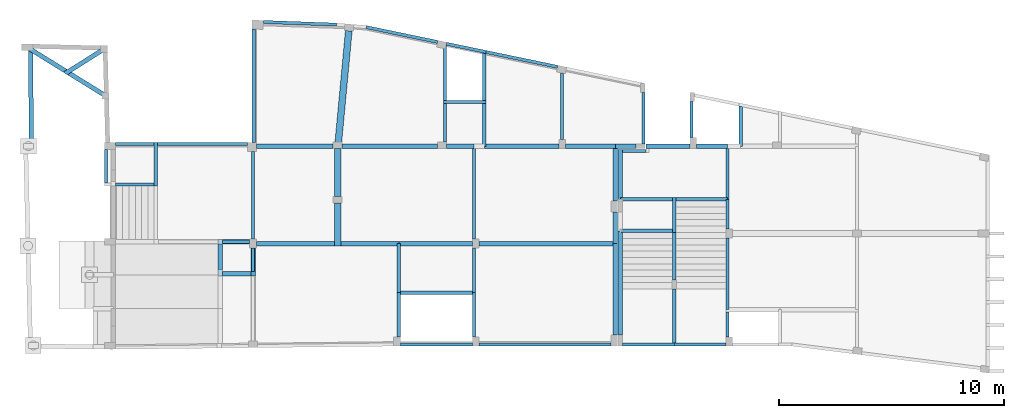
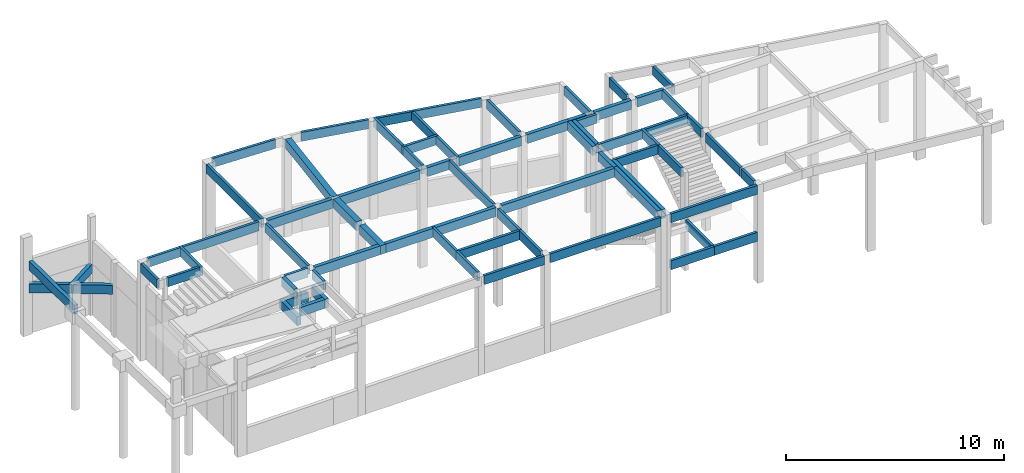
# One storey, part 2 of 8: 73 beams.
"""IFC4 building model written with IfcOpenShell, lengths in centimetres."""

from ifc_helpers import new_model, si_unit, derived_unit, frame, origin, origin_with_axes, origin_2d_with_axis, place, context, project, spatial, rectangle, extrude, clip, halfspace, material, element, save


model = new_model("IFC4")

# Units and contexts
model_context = context("Model", 3, precision=1e-05, world=origin_with_axes(), identifier="Body")
ifc_project = project(units=[si_unit("LENGTHUNIT", "METRE", prefix="CENTI"), si_unit("VOLUMEUNIT", "CUBIC_METRE"), si_unit("AREAUNIT", "SQUARE_METRE"), si_unit("POWERUNIT", "WATT"), si_unit("LUMINOUSFLUXUNIT", "LUMEN"), si_unit("ELECTRICCURRENTUNIT", "AMPERE"), si_unit("PRESSUREUNIT", "PASCAL", prefix="KILO"), si_unit("MASSUNIT", "GRAM", prefix="KILO"), si_unit("PLANEANGLEUNIT", "RADIAN"), derived_unit("VOLUMETRICFLOWRATEUNIT", [(si_unit("LENGTHUNIT", "METRE"), 3), (si_unit("TIMEUNIT", "SECOND"), -1)])], contexts=[model_context])

# Site, building, storey
site_placement = place(None, origin_with_axes())
site = spatial("IfcSite", under=ifc_project, at=site_placement)
building_placement = place(site_placement, origin())
building = spatial("IfcBuilding", under=site, at=building_placement)
placement = place(building_placement, origin_with_axes())
storey_placement = place(placement, frame((0.0, 0.0, 550.0), z_axis=(0.0, 0.0, 1.0), x_axis=(1.0, 0.0, 0.0)))
storey = spatial("IfcBuildingStorey", under=building, at=storey_placement, Name="TÉRREO", CompositionType="ELEMENT", Elevation=550.0)

# Beams
ifc_material = material(Name="Concreto")
for number, where, z_axis, x_axis in (
    (1, (3018.6, -1337.1, -263.0), (0.0, 0.0, 1.0), (1.0, 0.0, 0.0)),
    (2, (2788.6, -1337.1, -263.0), (0.0, 0.0, 1.0), (1.0, 0.0, 0.0)),
):
    element("IfcBeam", number, at=place(storey_placement, frame(where, z_axis=z_axis, x_axis=x_axis)), inside=storey, material=ifc_material, Name="V.ESCADA1", context=model_context, shape_type="SolidModel", body=[
        extrude(rectangle(XDim=14.0, YDim=50.0, at=origin_2d_with_axis()), frame((-115.0, 0.0, -25.0), z_axis=(1.0, 0.0, 0.0), x_axis=(0.0, 1.0, 0.0)), (0.0, 0.0, 1.0), 230.0),
    ])
beam_1_placement = place(storey_placement, frame((2903.6, -1213.6, -263.0), z_axis=(0.0, 0.0, 1.0), x_axis=(1.0, 0.0, 0.0)))
element("IfcBeam", 3, at=beam_1_placement, inside=storey, material=ifc_material, Name="V.ESCADA2", context=model_context, shape_type="SolidModel", body=[
    extrude(rectangle(XDim=14.0, YDim=50.0, at=origin_2d_with_axis()), frame((0.0, -123.5, -25.0), z_axis=(0.0, 1.0, 0.0), x_axis=(1.0, 0.0, 0.0)), (0.0, 0.0, 1.0), 247.0),
])
beam_2_placement = place(storey_placement, frame((41.2499080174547, -236.0598357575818, -135.0), z_axis=(0.0, 0.0, 1.0), x_axis=(1.0, 0.0, 0.0)))
element("IfcBeam", 4, at=beam_2_placement, inside=storey, material=ifc_material, Name="V.MURO2", context=model_context, shape_type="SolidModel", body=[
    extrude(rectangle(XDim=20.0, YDim=50.0, at=origin_2d_with_axis()), frame((1.250275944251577, -206.12049216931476, -25.0), z_axis=(-0.006065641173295, 1.0, 0.0), x_axis=(1.0, 0.006065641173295, 0.0)), (0.0, 0.0, 1.0), 412.2485681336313),
])
beam_3_placement = place(storey_placement, frame((285.51758311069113, -178.85838788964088, -263.0), z_axis=(0.0, 0.0, 1.0), x_axis=(1.0, 0.0, 0.0)))
element("IfcBeam", 5, at=beam_3_placement, inside=storey, material=ifc_material, Name="V.MURO3", context=model_context, shape_type="Clipping", body=[
    clip(extrude(rectangle(XDim=20.0, YDim=50.0, at=origin_2d_with_axis()), frame((-76.97662824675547, 50.23007914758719, -25.0), z_axis=(0.85022396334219, -0.526421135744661, 0.0), x_axis=(0.526421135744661, 0.85022396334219, 0.0)), (0.0, 0.0, 1.0), 181.07376777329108), halfspace(frame((-63.41224519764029, 53.59321897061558, 0.0), z_axis=(0.533145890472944, -0.846023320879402, 0.0), x_axis=(0.0, 0.0, 0.43865003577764)), True)),
])
beam_4_placement = place(storey_placement, frame((119.3630870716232, -73.4187566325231, -263.0), z_axis=(0.0, 0.0, 1.0), x_axis=(1.0, 0.0, 0.0)))
element("IfcBeam", 6, at=beam_4_placement, inside=storey, material=ifc_material, Name="V.MURO3", context=model_context, shape_type="SolidModel", body=[
    extrude(rectangle(XDim=20.0, YDim=50.0, at=origin_2d_with_axis()), frame((-83.86691292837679, 51.92124336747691, -25.0), z_axis=(0.850248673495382, -0.526381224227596, 0.0), x_axis=(0.526381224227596, 0.850248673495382, 0.0)), (0.0, 0.0, 1.0), 197.27619822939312),
])
beam_5_placement = place(storey_placement, frame((272.9837899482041, -78.78027161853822, -263.0), z_axis=(0.0, 0.0, 1.0), x_axis=(1.0, 0.0, 0.0)))
element("IfcBeam", 7, at=beam_5_placement, inside=storey, material=ifc_material, Name="V.MURO4", context=model_context, shape_type="Clipping", body=[
    clip(extrude(rectangle(XDim=20.0, YDim=50.0, at=origin_2d_with_axis()), frame((-83.29766895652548, -55.09479267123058, -25.0), z_axis=(0.846023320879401, 0.533145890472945, 0.0), x_axis=(0.533145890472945, -0.846023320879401, 0.0)), (0.0, 0.0, 1.0), 196.91577501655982), halfspace(frame((-88.62912786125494, -46.634559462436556, 0.0), z_axis=(0.526421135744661, 0.85022396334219, 0.0), x_axis=(0.0, 0.0, -0.438650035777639)), True)),
])
beam_6_placement = place(storey_placement, frame((882.6, -951.4, -135.0), z_axis=(0.0, 0.0, 1.0), x_axis=(1.0, 0.0, 0.0)))
element("IfcBeam", 8, at=beam_6_placement, inside=storey, material=ifc_material, Name="V.RAMPA13", context=model_context, shape_type="SolidModel", body=[
    extrude(rectangle(XDim=20.0, YDim=50.0, at=origin_2d_with_axis()), frame((0.0, -81.5, -25.0), z_axis=(0.0, 1.0, 0.0), x_axis=(1.0, 0.0, 0.0)), (0.0, 0.0, 1.0), 163.0),
])
beam_7_placement = place(storey_placement, frame((882.6, -946.575, 0.0), z_axis=(0.0, 0.0, 1.0), x_axis=(1.0, 0.0, 0.0)))
element("IfcBeam", 9, at=beam_7_placement, inside=storey, material=ifc_material, Name="V.RAMPA2", context=model_context, shape_type="SolidModel", body=[
    extrude(rectangle(XDim=20.0, YDim=50.0, at=origin_2d_with_axis()), frame((0.0, -56.325, -25.0), z_axis=(0.0, 1.0, 0.0), x_axis=(1.0, 0.0, 0.0)), (0.0, 0.0, 1.0), 112.65),
])
beam_8_placement = place(storey_placement, frame((956.05, -1022.9, -89.0), z_axis=(0.0, 0.0, 1.0), x_axis=(1.0, 0.0, 0.0)))
element("IfcBeam", 10, at=beam_8_placement, inside=storey, material=ifc_material, Name="V.RAMPA4", context=model_context, shape_type="SolidModel", body=[
    extrude(rectangle(XDim=20.0, YDim=50.0, at=origin_2d_with_axis()), frame((-63.45, 0.0, -25.0), z_axis=(1.0, 0.0, 0.0), x_axis=(0.0, -1.0, 0.0)), (0.0, 0.0, 1.0), 126.9),
])
beam_9_placement = place(storey_placement, frame((1029.5, -970.6326075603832, -89.0), z_axis=(0.0, 0.0, 1.0), x_axis=(1.0, 0.0, 0.0)))
element("IfcBeam", 11, at=beam_9_placement, inside=storey, material=ifc_material, Name="V.RAMPA7", context=model_context, shape_type="SolidModel", body=[
    extrude(rectangle(XDim=20.0, YDim=50.0, at=origin_2d_with_axis()), frame((0.0, -62.267392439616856, -25.0), z_axis=(0.0, 1.0, 0.0), x_axis=(1.0, 0.0, 0.0)), (0.0, 0.0, 1.0), 124.53478487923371),
])
beam_10_placement = place(storey_placement, frame((953.58224302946, -879.9, -135.0), z_axis=(0.0, 0.0, 1.0), x_axis=(1.0, 0.0, 0.0)))
element("IfcBeam", 12, at=beam_10_placement, inside=storey, material=ifc_material, Name="V.RAMPA8", context=model_context, shape_type="SolidModel", body=[
    extrude(rectangle(XDim=20.0, YDim=50.0, at=origin_2d_with_axis()), frame((-60.98224302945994, 0.0, -25.0), z_axis=(1.0, 0.0, 0.0), x_axis=(0.0, -1.0, 0.0)), (0.0, 0.0, 1.0), 121.96448605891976),
])
beam_11_placement = place(storey_placement, frame((1971.0, -258.9, 0.0), z_axis=(0.0, 0.0, 1.0), x_axis=(1.0, 0.0, 0.0)))
element("IfcBeam", 13, at=beam_11_placement, inside=storey, material=ifc_material, Name="V1", context=model_context, shape_type="SolidModel", body=[
    extrude(rectangle(XDim=14.0, YDim=50.0, at=origin_2d_with_axis()), frame((-94.0, 0.0, -25.0), z_axis=(1.0, 0.0, 0.0), x_axis=(0.0, 1.0, 0.0)), (0.0, 0.0, 1.0), 188.0),
])
beam_12_placement = place(storey_placement, frame((2338.1, -888.4, 0.0), z_axis=(0.0, 0.0, 1.0), x_axis=(1.0, 0.0, 0.0)))
element("IfcBeam", 14, at=beam_12_placement, inside=storey, material=ifc_material, Name="V10", context=model_context, shape_type="SolidModel", body=[
    extrude(rectangle(XDim=20.0, YDim=50.0, at=origin_2d_with_axis()), frame((-303.5, 0.0, -25.0), z_axis=(1.0, 0.0, 0.0), x_axis=(0.0, 1.0, 0.0)), (0.0, 0.0, 1.0), 607.0),
])
beam_13_placement = place(storey_placement, frame((1841.1, -888.4, 0.0), z_axis=(0.0, 0.0, 1.0), x_axis=(1.0, 0.0, 0.0)))
element("IfcBeam", 15, at=beam_13_placement, inside=storey, material=ifc_material, Name="V10", context=model_context, shape_type="SolidModel", body=[
    extrude(rectangle(XDim=20.0, YDim=50.0, at=origin_2d_with_axis()), frame((-163.5, 0.0, -25.0), z_axis=(1.0, 0.0, 0.0), x_axis=(0.0, 1.0, 0.0)), (0.0, 0.0, 1.0), 327.0),
])
beam_14_placement = place(storey_placement, frame((1225.232592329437, -888.4, 0.0), z_axis=(0.0, 0.0, 1.0), x_axis=(1.0, 0.0, 0.0)))
element("IfcBeam", 16, at=beam_14_placement, inside=storey, material=ifc_material, Name="V10", context=model_context, shape_type="SolidModel", body=[
    extrude(rectangle(XDim=20.0, YDim=50.0, at=origin_2d_with_axis()), frame((-180.767407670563, 0.0, -25.0), z_axis=(1.0, 0.0, 0.0), x_axis=(0.0, -1.0, 0.0)), (0.0, 0.0, 1.0), 361.534815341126),
])
beam_15_placement = place(storey_placement, frame((1549.3, -888.4, 0.0), z_axis=(0.0, 0.0, 1.0), x_axis=(1.0, 0.0, 0.0)))
element("IfcBeam", 17, at=beam_15_placement, inside=storey, material=ifc_material, Name="V10", context=model_context, shape_type="SolidModel", body=[
    extrude(rectangle(XDim=20.0, YDim=50.0, at=origin_2d_with_axis()), frame((-128.3, 0.0, -25.0), z_axis=(1.0, 0.0, 0.0), x_axis=(0.0, -1.0, 0.0)), (0.0, 0.0, 1.0), 256.6),
])
beam_16_placement = place(storey_placement, frame((1844.6, -1106.9, 0.0), z_axis=(0.0, 0.0, 1.0), x_axis=(1.0, 0.0, 0.0)))
element("IfcBeam", 18, at=beam_16_placement, inside=storey, material=ifc_material, Name="V14", context=model_context, shape_type="SolidModel", body=[
    extrude(rectangle(XDim=14.0, YDim=50.0, at=origin_2d_with_axis()), frame((-167.0, 0.0, -25.0), z_axis=(1.0, 0.0, 0.0), x_axis=(0.0, -1.0, 0.0)), (0.0, 0.0, 1.0), 334.0),
])
beam_17_placement = place(storey_placement, frame((1844.6, -1337.1, 0.0), z_axis=(0.0, 0.0, 1.0), x_axis=(1.0, 0.0, 0.0)))
element("IfcBeam", 19, at=beam_17_placement, inside=storey, material=ifc_material, Name="V18", context=model_context, shape_type="SolidModel", body=[
    extrude(rectangle(XDim=14.0, YDim=50.0, at=origin_2d_with_axis()), frame((160.0, 0.0, -25.0), z_axis=(-1.0, 0.0, 0.0), x_axis=(0.0, -1.0, 0.0)), (0.0, 0.0, 1.0), 320.0),
])
beam_18_placement = place(storey_placement, frame((2328.1, -1337.1, 0.0), z_axis=(0.0, 0.0, 1.0), x_axis=(1.0, 0.0, 0.0)))
element("IfcBeam", 20, at=beam_18_placement, inside=storey, material=ifc_material, Name="V18", context=model_context, shape_type="SolidModel", body=[
    extrude(rectangle(XDim=14.0, YDim=50.0, at=origin_2d_with_axis()), frame((293.5, 0.0, -25.0), z_axis=(-1.0, 0.0, 0.0), x_axis=(0.0, 1.0, 0.0)), (0.0, 0.0, 1.0), 587.0),
])
beam_19_placement = place(storey_placement, frame((800.75, -445.8, 0.0), z_axis=(0.0, 0.0, 1.0), x_axis=(1.0, 0.0, 0.0)))
element("IfcBeam", 21, at=beam_19_placement, inside=storey, material=ifc_material, Name="V2", context=model_context, shape_type="SolidModel", body=[
    extrude(rectangle(XDim=14.0, YDim=50.0, at=origin_2d_with_axis()), frame((-204.25, 0.0, -25.0), z_axis=(1.0, 0.0, 0.0), x_axis=(0.0, -1.0, 0.0)), (0.0, 0.0, 1.0), 408.5),
])
beam_20_placement = place(storey_placement, frame((503.625, -445.8, 0.0), z_axis=(0.0, 0.0, 1.0), x_axis=(1.0, 0.0, 0.0)))
element("IfcBeam", 22, at=beam_20_placement, inside=storey, material=ifc_material, Name="V2", context=model_context, shape_type="SolidModel", body=[
    extrude(rectangle(XDim=14.0, YDim=50.0, at=origin_2d_with_axis()), frame((-85.875, 0.0, -25.0), z_axis=(1.0, 0.0, 0.0), x_axis=(0.0, -1.0, 0.0)), (0.0, 0.0, 1.0), 171.75),
])
beam_21_placement = place(storey_placement, frame((374.75, -543.825, 0.0), z_axis=(0.0, 0.0, 1.0), x_axis=(1.0, 0.0, 0.0)))
element("IfcBeam", 23, at=beam_21_placement, inside=storey, material=ifc_material, Name="V21", context=model_context, shape_type="SolidModel", body=[
    extrude(rectangle(XDim=14.0, YDim=50.0, at=origin_2d_with_axis()), frame((0.0, -75.025, -25.0), z_axis=(0.0, 1.0, 0.0), x_axis=(1.0, 0.0, 0.0)), (0.0, 0.0, 1.0), 150.05),
])
beam_22_placement = place(storey_placement, frame((596.5, -535.825, 0.0), z_axis=(0.0, 0.0, 1.0), x_axis=(1.0, 0.0, 0.0)))
element("IfcBeam", 24, at=beam_22_placement, inside=storey, material=ifc_material, Name="V22", context=model_context, shape_type="SolidModel", body=[
    extrude(rectangle(XDim=14.0, YDim=50.0, at=origin_2d_with_axis()), frame((0.0, -97.025, -25.0), z_axis=(0.0, 1.0, 0.0), x_axis=(1.0, 0.0, 0.0)), (0.0, 0.0, 1.0), 194.05),
])
beam_23_placement = place(storey_placement, frame((1029.7, -960.65, 0.0), z_axis=(0.0, 0.0, 1.0), x_axis=(1.0, 0.0, 0.0)))
element("IfcBeam", 25, at=beam_23_placement, inside=storey, material=ifc_material, Name="V23", context=model_context, shape_type="SolidModel", body=[
    extrude(rectangle(XDim=14.0, YDim=50.0, at=origin_2d_with_axis()), frame((0.0, -52.25, -25.0), z_axis=(0.0, 1.0, 0.0), x_axis=(1.0, 0.0, 0.0)), (0.0, 0.0, 1.0), 104.5),
])
beam_24_placement = place(storey_placement, frame((1029.7, -673.6, 0.0), z_axis=(0.0, 0.0, 1.0), x_axis=(1.0, 0.0, 0.0)))
element("IfcBeam", 26, at=beam_24_placement, inside=storey, material=ifc_material, Name="V23", context=model_context, shape_type="SolidModel", body=[
    extrude(rectangle(XDim=14.0, YDim=50.0, at=origin_2d_with_axis()), frame((0.0, -194.8, -25.0), z_axis=(0.0, 1.0, 0.0), x_axis=(1.0, 0.0, 0.0)), (0.0, 0.0, 1.0), 389.6),
])
beam_25_placement = place(storey_placement, frame((1032.5, -186.08844115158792, 0.0), z_axis=(0.0, 0.0, 1.0), x_axis=(1.0, 0.0, 0.0)))
element("IfcBeam", 27, at=beam_25_placement, inside=storey, material=ifc_material, Name="V24", context=model_context, shape_type="SolidModel", body=[
    extrude(rectangle(XDim=14.0, YDim=50.0, at=origin_2d_with_axis()), frame((0.0, -252.7115588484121, -25.0), z_axis=(0.0, 1.0, 0.0), x_axis=(1.0, 0.0, 0.0)), (0.0, 0.0, 1.0), 505.4231176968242),
])
beam_26_placement = place(storey_placement, frame((1677.6, -997.65, 0.0), z_axis=(0.0, 0.0, 1.0), x_axis=(1.0, 0.0, 0.0)))
element("IfcBeam", 28, at=beam_26_placement, inside=storey, material=ifc_material, Name="V25", context=model_context, shape_type="SolidModel", body=[
    extrude(rectangle(XDim=14.0, YDim=50.0, at=origin_2d_with_axis()), frame((0.0, -109.25, -25.0), z_axis=(0.0, 1.0, 0.0), x_axis=(1.0, 0.0, 0.0)), (0.0, 0.0, 1.0), 218.5),
])
beam_27_placement = place(storey_placement, frame((1677.6, -1205.5, 0.0), z_axis=(0.0, 0.0, 1.0), x_axis=(1.0, 0.0, 0.0)))
element("IfcBeam", 29, at=beam_27_placement, inside=storey, material=ifc_material, Name="V25", context=model_context, shape_type="SolidModel", body=[
    extrude(rectangle(XDim=14.0, YDim=50.0, at=origin_2d_with_axis()), frame((0.0, -98.6, -25.0), z_axis=(0.0, 1.0, 0.0), x_axis=(1.0, 0.0, 0.0)), (0.0, 0.0, 1.0), 197.2),
])
beam_28_placement = place(storey_placement, frame((1884.0, -125.655, 0.0), z_axis=(0.0, 0.0, 1.0), x_axis=(1.0, 0.0, 0.0)))
element("IfcBeam", 30, at=beam_28_placement, inside=storey, material=ifc_material, Name="V26", context=model_context, shape_type="SolidModel", body=[
    extrude(rectangle(XDim=14.0, YDim=50.0, at=origin_2d_with_axis()), frame((0.0, -133.245, -25.0), z_axis=(0.0, 1.0, 0.0), x_axis=(1.0, 0.0, 0.0)), (0.0, 0.0, 1.0), 266.49),
])
beam_29_placement = place(storey_placement, frame((1884.0, -350.9, 0.0), z_axis=(0.0, 0.0, 1.0), x_axis=(1.0, 0.0, 0.0)))
element("IfcBeam", 31, at=beam_29_placement, inside=storey, material=ifc_material, Name="V26", context=model_context, shape_type="SolidModel", body=[
    extrude(rectangle(XDim=14.0, YDim=50.0, at=origin_2d_with_axis()), frame((0.0, -85.0, -25.0), z_axis=(0.0, 1.0, 0.0), x_axis=(1.0, 0.0, 0.0)), (0.0, 0.0, 1.0), 170.0),
])
beam_30_placement = place(storey_placement, frame((2011.6, -1007.65, 0.0), z_axis=(0.0, 0.0, 1.0), x_axis=(1.0, 0.0, 0.0)))
element("IfcBeam", 32, at=beam_30_placement, inside=storey, material=ifc_material, Name="V27", context=model_context, shape_type="SolidModel", body=[
    extrude(rectangle(XDim=14.0, YDim=50.0, at=origin_2d_with_axis()), frame((0.0, -99.25, -25.0), z_axis=(0.0, 1.0, 0.0), x_axis=(1.0, 0.0, 0.0)), (0.0, 0.0, 1.0), 198.5),
])
beam_31_placement = place(storey_placement, frame((2011.6, -1205.5, 0.0), z_axis=(0.0, 0.0, 1.0), x_axis=(1.0, 0.0, 0.0)))
element("IfcBeam", 33, at=beam_31_placement, inside=storey, material=ifc_material, Name="V27", context=model_context, shape_type="SolidModel", body=[
    extrude(rectangle(XDim=14.0, YDim=50.0, at=origin_2d_with_axis()), frame((0.0, -98.6, -25.0), z_axis=(0.0, 1.0, 0.0), x_axis=(1.0, 0.0, 0.0)), (0.0, 0.0, 1.0), 197.2),
])
beam_32_placement = place(storey_placement, frame((2011.6, -662.15, 0.0), z_axis=(0.0, 0.0, 1.0), x_axis=(1.0, 0.0, 0.0)))
element("IfcBeam", 34, at=beam_32_placement, inside=storey, material=ifc_material, Name="V27", context=model_context, shape_type="SolidModel", body=[
    extrude(rectangle(XDim=14.0, YDim=50.0, at=origin_2d_with_axis()), frame((0.0, -206.25, -25.0), z_axis=(0.0, 1.0, 0.0), x_axis=(1.0, 0.0, 0.0)), (0.0, 0.0, 1.0), 412.5),
])
beam_33_placement = place(storey_placement, frame((2058.0, -360.9, 0.0), z_axis=(0.0, 0.0, 1.0), x_axis=(1.0, 0.0, 0.0)))
element("IfcBeam", 35, at=beam_33_placement, inside=storey, material=ifc_material, Name="V28", context=model_context, shape_type="SolidModel", body=[
    extrude(rectangle(XDim=14.0, YDim=50.0, at=origin_2d_with_axis()), frame((0.0, -95.0, -25.0), z_axis=(0.0, 1.0, 0.0), x_axis=(1.0, 0.0, 0.0)), (0.0, 0.0, 1.0), 190.0),
])
beam_34_placement = place(storey_placement, frame((2058.0, -149.41825719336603, 0.0), z_axis=(0.0, 0.0, 1.0), x_axis=(1.0, 0.0, 0.0)))
element("IfcBeam", 36, at=beam_34_placement, inside=storey, material=ifc_material, Name="V28", context=model_context, shape_type="Clipping", body=[
    clip(extrude(rectangle(XDim=14.0, YDim=50.0, at=origin_2d_with_axis()), frame((0.0, -109.48174280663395, -25.0), z_axis=(0.0, 1.0, 0.0), x_axis=(1.0, 0.0, 0.0)), (0.0, 0.0, 1.0), 218.96348561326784), halfspace(frame((-7.0, 109.48174280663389, -50.0), z_axis=(-0.203188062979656, -0.979139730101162, 0.0), x_axis=(0.0, 0.0, -0.203188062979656)), True)),
])
beam_35_placement = place(storey_placement, frame((2404.5, -277.05130786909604, 0.0), z_axis=(0.0, 0.0, 1.0), x_axis=(1.0, 0.0, 0.0)))
element("IfcBeam", 37, at=beam_35_placement, inside=storey, material=ifc_material, Name="V29", context=model_context, shape_type="SolidModel", body=[
    extrude(rectangle(XDim=14.0, YDim=50.0, at=origin_2d_with_axis()), frame((0.0, -148.84869213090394, -25.0), z_axis=(0.0, 1.0, 0.0), x_axis=(1.0, 0.0, 0.0)), (0.0, 0.0, 1.0), 297.6973842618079),
])
beam_36_placement = place(storey_placement, frame((1951.3, -455.9, 0.0), z_axis=(0.0, 0.0, 1.0), x_axis=(1.0, 0.0, 0.0)))
element("IfcBeam", 38, at=beam_36_placement, inside=storey, material=ifc_material, Name="V3", context=model_context, shape_type="SolidModel", body=[
    extrude(rectangle(XDim=20.0, YDim=50.0, at=origin_2d_with_axis()), frame((-60.3, 0.0, -25.0), z_axis=(1.0, 0.0, 0.0), x_axis=(0.0, 1.0, 0.0)), (0.0, 0.0, 1.0), 120.6),
])
beam_37_placement = place(storey_placement, frame((1638.5, -455.9, 0.0), z_axis=(0.0, 0.0, 1.0), x_axis=(1.0, 0.0, 0.0)))
element("IfcBeam", 39, at=beam_37_placement, inside=storey, material=ifc_material, Name="V3", context=model_context, shape_type="SolidModel", body=[
    extrude(rectangle(XDim=20.0, YDim=50.0, at=origin_2d_with_axis()), frame((-212.5, 0.0, -25.0), z_axis=(1.0, 0.0, 0.0), x_axis=(0.0, 1.0, 0.0)), (0.0, 0.0, 1.0), 425.0),
])
beam_38_placement = place(storey_placement, frame((1215.5, -455.9, 0.0), z_axis=(0.0, 0.0, 1.0), x_axis=(1.0, 0.0, 0.0)))
element("IfcBeam", 40, at=beam_38_placement, inside=storey, material=ifc_material, Name="V3", context=model_context, shape_type="SolidModel", body=[
    extrude(rectangle(XDim=20.0, YDim=50.0, at=origin_2d_with_axis()), frame((-170.5, 0.0, -25.0), z_axis=(1.0, 0.0, 0.0), x_axis=(0.0, 1.0, 0.0)), (0.0, 0.0, 1.0), 341.0),
])
beam_39_placement = place(storey_placement, frame((2687.3, -455.9, 0.0), z_axis=(0.0, 0.0, 1.0), x_axis=(1.0, 0.0, 0.0)))
element("IfcBeam", 41, at=beam_39_placement, inside=storey, material=ifc_material, Name="V3", context=model_context, shape_type="SolidModel", body=[
    extrude(rectangle(XDim=20.0, YDim=50.0, at=origin_2d_with_axis()), frame((-45.7, 0.0, -25.0), z_axis=(1.0, 0.0, 0.0), x_axis=(0.0, 1.0, 0.0)), (0.0, 0.0, 1.0), 91.4),
])
beam_40_placement = place(storey_placement, frame((2530.55, -455.9, 0.0), z_axis=(0.0, 0.0, 1.0), x_axis=(1.0, 0.0, 0.0)))
element("IfcBeam", 42, at=beam_40_placement, inside=storey, material=ifc_material, Name="V3", context=model_context, shape_type="SolidModel", body=[
    extrude(rectangle(XDim=20.0, YDim=50.0, at=origin_2d_with_axis()), frame((-111.05, 0.0, -25.0), z_axis=(1.0, 0.0, 0.0), x_axis=(0.0, 1.0, 0.0)), (0.0, 0.0, 1.0), 222.1),
])
beam_41_placement = place(storey_placement, frame((2223.75, -455.9, 0.0), z_axis=(0.0, 0.0, 1.0), x_axis=(1.0, 0.0, 0.0)))
element("IfcBeam", 43, at=beam_41_placement, inside=storey, material=ifc_material, Name="V3", context=model_context, shape_type="SolidModel", body=[
    extrude(rectangle(XDim=20.0, YDim=50.0, at=origin_2d_with_axis()), frame((-165.75, 0.0, -25.0), z_axis=(1.0, 0.0, 0.0), x_axis=(0.0, 1.0, 0.0)), (0.0, 0.0, 1.0), 331.5),
])
beam_42_placement = place(storey_placement, frame((2663.6, -580.5, 0.0), z_axis=(0.0, 0.0, 1.0), x_axis=(1.0, 0.0, 0.0)))
element("IfcBeam", 44, at=beam_42_placement, inside=storey, material=ifc_material, Name="V30", context=model_context, shape_type="SolidModel", body=[
    extrude(rectangle(XDim=20.0, YDim=50.0, at=origin_2d_with_axis()), frame((0.0, -110.6, -25.0), z_axis=(0.0, 1.0, 0.0), x_axis=(1.0, 0.0, 0.0)), (0.0, 0.0, 1.0), 221.2),
])
beam_43_placement = place(storey_placement, frame((2663.6, -1062.6, 0.0), z_axis=(0.0, 0.0, 1.0), x_axis=(1.0, 0.0, 0.0)))
element("IfcBeam", 45, at=beam_43_placement, inside=storey, material=ifc_material, Name="V30", context=model_context, shape_type="SolidModel", body=[
    extrude(rectangle(XDim=20.0, YDim=50.0, at=origin_2d_with_axis()), frame((0.0, -231.5, -25.0), z_axis=(0.0, 1.0, 0.0), x_axis=(1.0, 0.0, 0.0)), (0.0, 0.0, 1.0), 463.0),
])
beam_44_placement = place(storey_placement, frame((2641.6, -818.25, 0.0), z_axis=(0.0, 0.0, 1.0), x_axis=(1.0, 0.0, 0.0)))
element("IfcBeam", 46, at=beam_44_placement, inside=storey, material=ifc_material, Name="V31", context=model_context, shape_type="SolidModel", body=[
    extrude(rectangle(XDim=20.0, YDim=50.0, at=origin_2d_with_axis()), frame((0.0, -70.15, -25.0), z_axis=(0.0, 1.0, 0.0), x_axis=(1.0, 0.0, 0.0)), (0.0, 0.0, 1.0), 140.3),
])
beam_45_placement = place(storey_placement, frame((2641.6, -1091.25, 0.0), z_axis=(0.0, 0.0, 1.0), x_axis=(1.0, 0.0, 0.0)))
element("IfcBeam", 47, at=beam_45_placement, inside=storey, material=ifc_material, Name="V31", context=model_context, shape_type="SolidModel", body=[
    extrude(rectangle(XDim=20.0, YDim=50.0, at=origin_2d_with_axis()), frame((0.0, -202.85, -25.0), z_axis=(0.0, 1.0, 0.0), x_axis=(1.0, 0.0, 0.0)), (0.0, 0.0, 1.0), 405.7),
])
beam_46_placement = place(storey_placement, frame((2641.6, -577.0, 0.0), z_axis=(0.0, 0.0, 1.0), x_axis=(1.0, 0.0, 0.0)))
element("IfcBeam", 48, at=beam_46_placement, inside=storey, material=ifc_material, Name="V31", context=model_context, shape_type="SolidModel", body=[
    extrude(rectangle(XDim=20.0, YDim=50.0, at=origin_2d_with_axis()), frame((0.0, -121.1, -25.0), z_axis=(0.0, 1.0, 0.0), x_axis=(1.0, 0.0, 0.0)), (0.0, 0.0, 1.0), 242.2),
])
beam_47_placement = place(storey_placement, frame((2766.0, -330.695, 0.0), z_axis=(0.0, 0.0, 1.0), x_axis=(1.0, 0.0, 0.0)))
element("IfcBeam", 49, at=beam_47_placement, inside=storey, material=ifc_material, Name="V33", context=model_context, shape_type="SolidModel", body=[
    extrude(rectangle(XDim=14.0, YDim=50.0, at=origin_2d_with_axis()), frame((0.0, -115.205, -25.0), z_axis=(0.0, 1.0, 0.0), x_axis=(1.0, 0.0, 0.0)), (0.0, 0.0, 1.0), 230.41),
])
beam_48_placement = place(storey_placement, frame((2903.6, -940.6, 0.0), z_axis=(0.0, 0.0, 1.0), x_axis=(1.0, 0.0, 0.0)))
element("IfcBeam", 50, at=beam_48_placement, inside=storey, material=ifc_material, Name="V34", context=model_context, shape_type="SolidModel", body=[
    extrude(rectangle(XDim=14.0, YDim=50.0, at=origin_2d_with_axis()), frame((0.0, -109.5, -25.0), z_axis=(0.0, 1.0, 0.0), x_axis=(1.0, 0.0, 0.0)), (0.0, 0.0, 1.0), 219.0),
])
beam_49_placement = place(storey_placement, frame((2903.6, -761.1, 0.0), z_axis=(0.0, 0.0, 1.0), x_axis=(1.0, 0.0, 0.0)))
element("IfcBeam", 51, at=beam_49_placement, inside=storey, material=ifc_material, Name="V34", context=model_context, shape_type="SolidModel", body=[
    extrude(rectangle(XDim=14.0, YDim=50.0, at=origin_2d_with_axis()), frame((0.0, -77.0, -25.0), z_axis=(0.0, 1.0, 0.0), x_axis=(1.0, 0.0, 0.0)), (0.0, 0.0, 1.0), 154.0),
])
beam_50_placement = place(storey_placement, frame((2980.0, -336.45, 0.0), z_axis=(0.0, 0.0, 1.0), x_axis=(1.0, 0.0, 0.0)))
element("IfcBeam", 52, at=beam_50_placement, inside=storey, material=ifc_material, Name="V35", context=model_context, shape_type="SolidModel", body=[
    extrude(rectangle(XDim=14.0, YDim=50.0, at=origin_2d_with_axis()), frame((0.0, -79.45, -25.0), z_axis=(0.0, 1.0, 0.0), x_axis=(1.0, 0.0, 0.0)), (0.0, 0.0, 1.0), 158.9),
])
beam_51_placement = place(storey_placement, frame((3140.6, -573.5, 0.0), z_axis=(0.0, 0.0, 1.0), x_axis=(1.0, 0.0, 0.0)))
element("IfcBeam", 53, at=beam_51_placement, inside=storey, material=ifc_material, Name="V36", context=model_context, shape_type="SolidModel", body=[
    extrude(rectangle(XDim=14.0, YDim=50.0, at=origin_2d_with_axis()), frame((0.0, -117.6, -25.0), z_axis=(0.0, 1.0, 0.0), x_axis=(1.0, 0.0, 0.0)), (0.0, 0.0, 1.0), 235.2),
])
beam_52_placement = place(storey_placement, frame((3140.6, -1022.75, 0.0), z_axis=(0.0, 0.0, 1.0), x_axis=(1.0, 0.0, 0.0)))
element("IfcBeam", 54, at=beam_52_placement, inside=storey, material=ifc_material, Name="V36", context=model_context, shape_type="SolidModel", body=[
    extrude(rectangle(XDim=14.0, YDim=50.0, at=origin_2d_with_axis()), frame((0.0, -159.15, -25.0), z_axis=(0.0, 1.0, 0.0), x_axis=(1.0, 0.0, 0.0)), (0.0, 0.0, 1.0), 318.3),
])
beam_53_placement = place(storey_placement, frame((3140.6, -1248.0, 0.0), z_axis=(0.0, 0.0, 1.0), x_axis=(1.0, 0.0, 0.0)))
element("IfcBeam", 55, at=beam_53_placement, inside=storey, material=ifc_material, Name="V36", context=model_context, shape_type="SolidModel", body=[
    extrude(rectangle(XDim=14.0, YDim=50.0, at=origin_2d_with_axis()), frame((0.0, -56.1, -25.0), z_axis=(0.0, 1.0, 0.0), x_axis=(1.0, 0.0, 0.0)), (0.0, 0.0, 1.0), 112.2),
])
beam_54_placement = place(storey_placement, frame((3140.6, -757.35, 0.0), z_axis=(0.0, 0.0, 1.0), x_axis=(1.0, 0.0, 0.0)))
element("IfcBeam", 56, at=beam_54_placement, inside=storey, material=ifc_material, Name="V36", context=model_context, shape_type="SolidModel", body=[
    extrude(rectangle(XDim=14.0, YDim=50.0, at=origin_2d_with_axis()), frame((0.0, -66.25, -25.0), z_axis=(0.0, 1.0, 0.0), x_axis=(1.0, 0.0, 0.0)), (0.0, 0.0, 1.0), 132.5),
])
beam_55_placement = place(storey_placement, frame((3199.0, -366.3280979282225, 0.0), z_axis=(0.0, 0.0, 1.0), x_axis=(1.0, 0.0, 0.0)))
element("IfcBeam", 57, at=beam_55_placement, inside=storey, material=ifc_material, Name="V37", context=model_context, shape_type="Clipping", body=[
    clip(extrude(rectangle(XDim=14.0, YDim=50.0, at=origin_2d_with_axis()), frame((0.0, -89.57190207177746, -25.0), z_axis=(0.0, 1.0, 0.0), x_axis=(1.0, 0.0, 0.0)), (0.0, 0.0, 1.0), 179.14380414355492), halfspace(frame((-7.0, 89.57190207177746, -50.0), z_axis=(-0.203241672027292, -0.979128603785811, 0.0), x_axis=(0.0, 0.0, -0.203241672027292)), True)),
])
beam_56_placement = place(storey_placement, frame((2725.3, -476.9, 0.0), z_axis=(0.0, 0.0, 1.0), x_axis=(1.0, 0.0, 0.0)))
element("IfcBeam", 58, at=beam_56_placement, inside=storey, material=ifc_material, Name="V4", context=model_context, shape_type="SolidModel", body=[
    extrude(rectangle(XDim=14.0, YDim=50.0, at=origin_2d_with_axis()), frame((-51.7, 0.0, -25.0), z_axis=(1.0, 0.0, 0.0), x_axis=(0.0, 1.0, 0.0)), (0.0, 0.0, 1.0), 103.4),
])
beam_57_placement = place(storey_placement, frame((1976.5788417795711, -17.63888659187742, 0.0), z_axis=(0.0, 0.0, 1.0), x_axis=(1.0, 0.0, 0.0)))
element("IfcBeam", 59, at=beam_57_placement, inside=storey, material=ifc_material, Name="V42", context=model_context, shape_type="Clipping", body=[
    clip(extrude(rectangle(XDim=14.0, YDim=50.0, at=origin_2d_with_axis()), frame((-86.9988417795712, 18.348886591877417, -25.0), z_axis=(0.979139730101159, -0.203188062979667, 0.0), x_axis=(0.203188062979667, 0.979139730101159, 0.0)), (0.0, 0.0, 1.0), 180.60988743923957), halfspace(frame((88.42115822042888, -10.904599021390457, -50.0), z_axis=(-1.0, 0.0, 0.0), x_axis=(0.0, 0.0, 0.203188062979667)), True)),
])
beam_58_placement = place(storey_placement, frame((1238.2165510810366, 91.98809983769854, 0.0), z_axis=(0.0, 0.0, 1.0), x_axis=(1.0, 0.0, 0.0)))
element("IfcBeam", 60, at=beam_58_placement, inside=storey, material=ifc_material, Name="V42", context=model_context, shape_type="Clipping", body=[
    clip(extrude(rectangle(XDim=14.0, YDim=50.0, at=origin_2d_with_axis()), frame((-163.0065510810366, 5.831900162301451, -25.0), z_axis=(0.99935925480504, -0.035792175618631, 0.0), x_axis=(0.035792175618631, 0.99935925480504, 0.0)), (0.0, 0.0, 1.0), 326.2221274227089), halfspace(frame((163.25709631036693, 1.151215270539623, -50.0), z_axis=(-0.998168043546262, 0.06050253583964, 0.0), x_axis=(0.0, 0.0, -0.024737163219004)), True)),
])
beam_59_placement = place(storey_placement, frame((1691.910693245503, 41.90279632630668, 0.0), z_axis=(0.0, 0.0, 1.0), x_axis=(1.0, 0.0, 0.0)))
element("IfcBeam", 61, at=beam_59_placement, inside=storey, material=ifc_material, Name="V42", context=model_context, shape_type="Clipping", body=[
    clip(extrude(rectangle(XDim=14.0, YDim=50.0, at=origin_2d_with_axis()), frame((-159.3220797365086, 33.0627963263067, -25.0), z_axis=(0.97903401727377, -0.203696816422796, 0.0), x_axis=(0.203696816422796, 0.97903401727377, 0.0)), (0.0, 0.0, 1.0), 324.62752149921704), halfspace(frame((-157.89620202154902, 39.91603444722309, 0.0), z_axis=(0.989480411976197, -0.144666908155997, 0.0), x_axis=(0.0, 0.0, -0.059920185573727)), True)),
])
beam_60_placement = place(storey_placement, frame((2220.895, -68.05, 0.0), z_axis=(0.0, 0.0, 1.0), x_axis=(1.0, 0.0, 0.0)))
element("IfcBeam", 62, at=beam_60_placement, inside=storey, material=ifc_material, Name="V42", context=model_context, shape_type="SolidModel", body=[
    extrude(rectangle(XDim=14.0, YDim=50.0, at=origin_2d_with_axis()), frame((-162.895, 33.81, -25.0), z_axis=(0.979131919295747, -0.203225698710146, 0.0), x_axis=(0.203225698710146, 0.979131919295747, 0.0)), (0.0, 0.0, 1.0), 332.7335097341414),
])
beam_61_placement = place(storey_placement, frame((1406.0, -803.15, 0.0), z_axis=(0.0, 0.0, 1.0), x_axis=(1.0, 0.0, 0.0)))
element("IfcBeam", 63, at=beam_61_placement, inside=storey, material=ifc_material, Name="V44", context=model_context, shape_type="SolidModel", body=[
    extrude(rectangle(XDim=30.0, YDim=50.0, at=origin_2d_with_axis()), frame((0.0, -95.25, -25.0), z_axis=(0.0, 1.0, 0.0), x_axis=(1.0, 0.0, 0.0)), (0.0, 0.0, 1.0), 190.5),
])
beam_62_placement = place(storey_placement, frame((1406.0, -571.9, 0.0), z_axis=(0.0, 0.0, 1.0), x_axis=(1.0, 0.0, 0.0)))
element("IfcBeam", 64, at=beam_62_placement, inside=storey, material=ifc_material, Name="V44", context=model_context, shape_type="SolidModel", body=[
    extrude(rectangle(XDim=30.0, YDim=50.0, at=origin_2d_with_axis()), frame((0.0, -106.0, -25.0), z_axis=(0.0, 1.0, 0.0), x_axis=(1.0, 0.0, 0.0)), (0.0, 0.0, 1.0), 212.0),
])
beam_63_placement = place(storey_placement, frame((1431.3205021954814, -196.24371374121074, 0.0), z_axis=(0.0, 0.0, 1.0), x_axis=(1.0, 0.0, 0.0)))
element("IfcBeam", 65, at=beam_63_placement, inside=storey, material=ifc_material, Name="V44", context=model_context, shape_type="SolidModel", body=[
    extrude(rectangle(XDim=30.0, YDim=50.0, at=origin_2d_with_axis()), frame((-23.92113544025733, -254.7876679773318, -25.0), z_axis=(0.093475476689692, 0.995621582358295, 0.0), x_axis=(0.995621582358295, -0.093475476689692, 0.0)), (0.0, 0.0, 1.0), 511.8162813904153),
])
beam_64_placement = place(storey_placement, frame((2903.6, -1337.085, 0.0), z_axis=(0.0, 0.0, 1.0), x_axis=(1.0, 0.0, 0.0)))
element("IfcBeam", 66, at=beam_64_placement, inside=storey, material=ifc_material, Name="V45", context=model_context, shape_type="SolidModel", body=[
    extrude(rectangle(XDim=14.0, YDim=50.0, at=origin_2d_with_axis()), frame((230.0, 0.015, -25.0), z_axis=(-1.0, -6.5217391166e-05, 0.0), x_axis=(-6.5217391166e-05, 1.0, 0.0)), (0.0, 0.0, 1.0), 460.0),
])
beam_65_placement = place(storey_placement, frame((3071.8, -455.9, 0.0), z_axis=(0.0, 0.0, 1.0), x_axis=(1.0, 0.0, 0.0)))
element("IfcBeam", 67, at=beam_65_placement, inside=storey, material=ifc_material, Name="V5", context=model_context, shape_type="SolidModel", body=[
    extrude(rectangle(XDim=20.0, YDim=50.0, at=origin_2d_with_axis()), frame((-68.8, 0.0, -25.0), z_axis=(1.0, 0.0, 0.0), x_axis=(0.0, 1.0, 0.0)), (0.0, 0.0, 1.0), 137.6),
])
beam_66_placement = place(storey_placement, frame((2875.0, -455.9, 0.0), z_axis=(0.0, 0.0, 1.0), x_axis=(1.0, 0.0, 0.0)))
element("IfcBeam", 68, at=beam_66_placement, inside=storey, material=ifc_material, Name="V5", context=model_context, shape_type="SolidModel", body=[
    extrude(rectangle(XDim=20.0, YDim=50.0, at=origin_2d_with_axis()), frame((-98.0, 0.0, -25.0), z_axis=(1.0, 0.0, 0.0), x_axis=(0.0, 1.0, 0.0)), (0.0, 0.0, 1.0), 196.0),
])
beam_67_placement = place(storey_placement, frame((503.625, -625.85, 0.0), z_axis=(0.0, 0.0, 1.0), x_axis=(1.0, 0.0, 0.0)))
element("IfcBeam", 69, at=beam_67_placement, inside=storey, material=ifc_material, Name="V6", context=model_context, shape_type="SolidModel", body=[
    extrude(rectangle(XDim=14.0, YDim=50.0, at=origin_2d_with_axis()), frame((-85.875, 0.0, -25.0), z_axis=(1.0, 0.0, 0.0), x_axis=(0.0, -1.0, 0.0)), (0.0, 0.0, 1.0), 171.75),
])
beam_68_placement = place(storey_placement, frame((3025.6, -691.1, 0.0), z_axis=(0.0, 0.0, 1.0), x_axis=(1.0, 0.0, 0.0)))
element("IfcBeam", 70, at=beam_68_placement, inside=storey, material=ifc_material, Name="V7", context=model_context, shape_type="SolidModel", body=[
    extrude(rectangle(XDim=14.0, YDim=50.0, at=origin_2d_with_axis()), frame((-115.0, 0.0, -25.0), z_axis=(1.0, 0.0, 0.0), x_axis=(0.0, 1.0, 0.0)), (0.0, 0.0, 1.0), 230.0),
])
beam_69_placement = place(storey_placement, frame((2783.6, -691.1, 0.0), z_axis=(0.0, 0.0, 1.0), x_axis=(1.0, 0.0, 0.0)))
element("IfcBeam", 71, at=beam_69_placement, inside=storey, material=ifc_material, Name="V7", context=model_context, shape_type="SolidModel", body=[
    extrude(rectangle(XDim=14.0, YDim=50.0, at=origin_2d_with_axis()), frame((-120.0, 0.0, -25.0), z_axis=(1.0, 0.0, 0.0), x_axis=(0.0, 1.0, 0.0)), (0.0, 0.0, 1.0), 240.0),
])
beam_70_placement = place(storey_placement, frame((953.5763961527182, -880.25, 0.0), z_axis=(0.0, 0.0, 1.0), x_axis=(1.0, 0.0, 0.0)))
element("IfcBeam", 72, at=beam_70_placement, inside=storey, material=ifc_material, Name="V8", context=model_context, shape_type="SolidModel", body=[
    extrude(rectangle(XDim=14.0, YDim=50.0, at=origin_2d_with_axis()), frame((-60.976396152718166, 0.0, -25.0), z_axis=(1.0, 0.0, 0.0), x_axis=(0.0, -1.0, 0.0)), (0.0, 0.0, 1.0), 121.95279230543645),
])
beam_71_placement = place(storey_placement, frame((2781.6, -831.1, 0.0), z_axis=(0.0, 0.0, 1.0), x_axis=(1.0, 0.0, 0.0)))
element("IfcBeam", 73, at=beam_71_placement, inside=storey, material=ifc_material, Name="V9", context=model_context, shape_type="SolidModel", body=[
    extrude(rectangle(XDim=14.0, YDim=50.0, at=origin_2d_with_axis()), frame((-115.0, 0.0, -25.0), z_axis=(1.0, 0.0, 0.0), x_axis=(0.0, 1.0, 0.0)), (0.0, 0.0, 1.0), 230.0),
])

save(model, "model.ifc")
